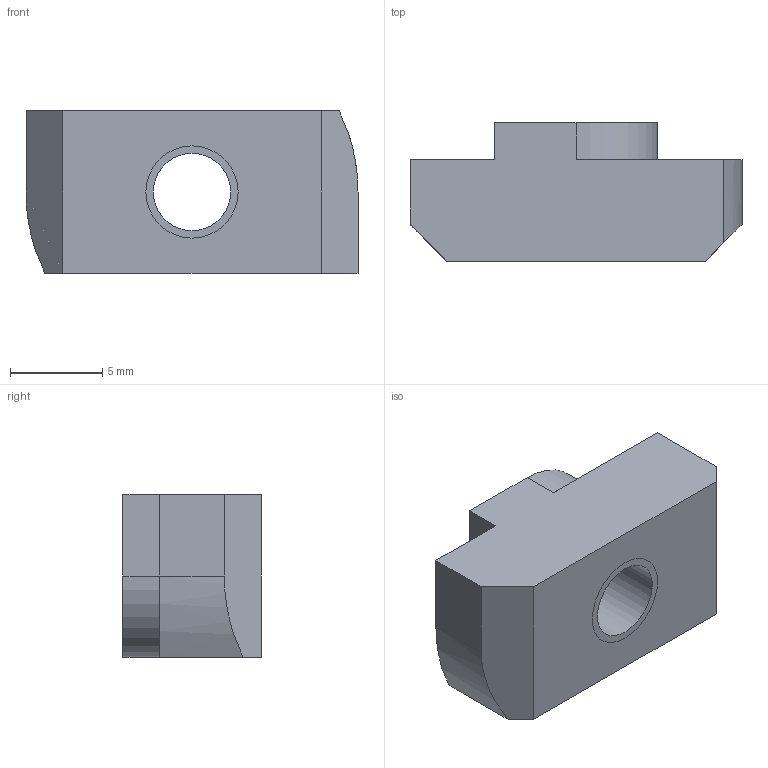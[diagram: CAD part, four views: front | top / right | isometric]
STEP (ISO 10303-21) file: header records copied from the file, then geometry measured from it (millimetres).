
FILE_DESCRIPTION((''),'2;1');
FILE_NAME('DAM0509','2002-12-27T',('Lipro doo'),('Lipro d.o.o.'),'PRO/ENGINEER BY PARAMETRIC TECHNOLOGY CORPORATION, 2001150','PRO/ENGINEER BY PARAMETRIC TECHNOLOGY CORPORATION, 2001150','');
FILE_SCHEMA(('CONFIG_CONTROL_DESIGN'));
Length unit declared in the file: millimetre
Products named in the file (1): DAM0509
Bounding box: 18 x 7.5 x 8.8 mm (x, y, z)
Volume: 857.2 mm3; surface area: 818.2 mm2
Topology: 1 solids, 2 shells, 22 faces, 58 edges, 38 vertices
Faces by surface type: plane 12, cylinder 8, cone 2
Entity records: 734 total; most frequent: CARTESIAN_POINT 127, DIRECTION 118, ORIENTED_EDGE 112, EDGE_CURVE 58, VECTOR 40, LINE 40, AXIS2_PLACEMENT_3D 39, VERTEX_POINT 38
